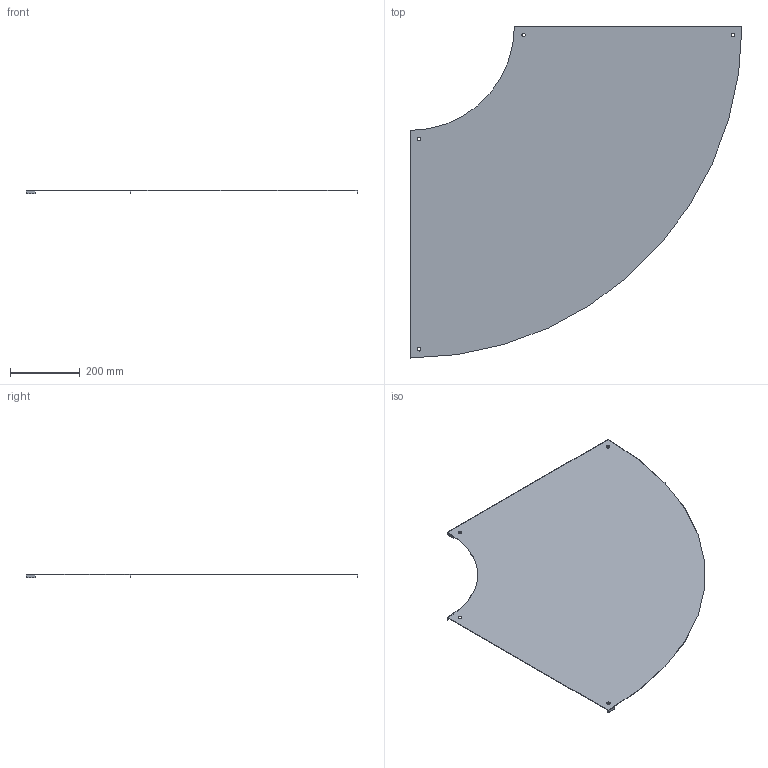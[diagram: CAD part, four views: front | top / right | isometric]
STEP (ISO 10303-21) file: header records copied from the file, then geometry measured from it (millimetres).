
FILE_DESCRIPTION(/* description */ ('','CAx-IF Rec.Pracs.---Representation and Presentation of Product Manufacturing Information (PMI)---4.0---2014-10-13'),/* implementation_level */ '2;1');
FILE_NAME(/* name */ 'Eurostrut_EFBC600-90-300_Cover Bend 90 for Cable Ladder ECL.step',/* time_stamp */ '2026-09-10T08:55:40+02:00',/* author */ (''),/* organization */ (''),/* preprocessor_version */ 'ST-DEVELOPER v20.1',/* originating_system */ 'Autodesk Revit 2027 27.2.0.39',/* authorisation */ '');
FILE_SCHEMA (('AP242_MANAGED_MODEL_BASED_3D_ENGINEERING_MIM_LF { 1 0 10303 442 2 1 4 }'));
Length unit declared in the file: millimetre
Products named in the file (5): TopLevelAssembly; Sweep; Sweep_1; Joined Solid Geometry; Joined Solid Geometry_1
Assembly tree (4 placements, depth 2):
  TopLevelAssembly
    Sweep
    Sweep_1
    Joined Solid Geometry
    Joined Solid Geometry_1
Bounding box: 952.5 x 952.5 x 9 mm (x, y, z)
Volume: 964280.4 mm3; surface area: 1291298.2 mm2
Topology: 9 solids, 9 shells, 66 faces, 144 edges, 96 vertices
Faces by surface type: plane 48, cylinder 18
Entity records: 1904 total; most frequent: DIRECTION 330, CARTESIAN_POINT 315, ORIENTED_EDGE 288, EDGE_CURVE 144, AXIS2_PLACEMENT_3D 111, LINE 108, VECTOR 108, VERTEX_POINT 96
